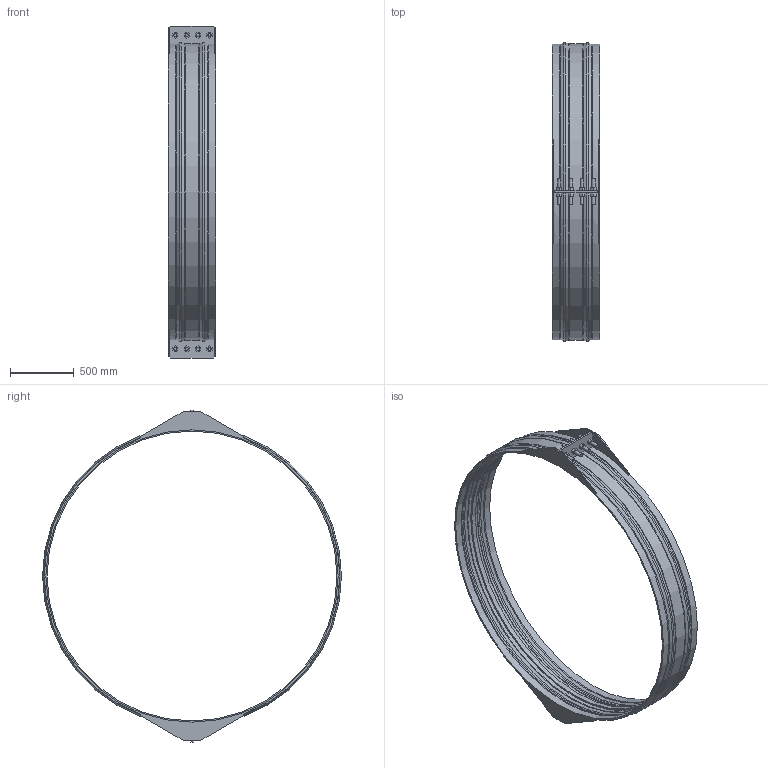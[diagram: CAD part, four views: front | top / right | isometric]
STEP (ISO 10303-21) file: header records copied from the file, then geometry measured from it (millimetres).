
FILE_DESCRIPTION(/* description */ ('VIC SS RESTRAINED COUPLING STYLE 233S (FLEX) (BRD)','CAx-IF Rec.Pracs.---Representation and Presentation of Product Manufacturing Information (PMI)---4.0---2014-10-13'),/* implementation_level */ '2;1');
FILE_NAME(/* name */ 'C:\Users\kkamble\AppData\Roaming\Autodesk\ApplicationPlugins\Back Up\Victaulic_VBSP_Coupling Flexible Restrained_Style 233S (BRD)\Victaulic_VBSP_Coupling Flexible Restrained_Style 233S (BRD)_100psi_90 (2250).stp',/* time_stamp */ '2020-09-22T18:31:40+05:00',/* author */ ('Vjadhav'),/* organization */ ('Victaulic'),/* preprocessor_version */ 'ST-DEVELOPER v17.2',/* originating_system */ 'Autodesk Inventor 2019',/* authorisation */ '');
FILE_SCHEMA (('AP242_MANAGED_MODEL_BASED_3D_ENGINEERING_MIM_LF { 1 0 10303 442 1 1 4 }'));
Length unit declared in the file: inch
Products named in the file (1): Style_233S_Type_2_100psi-90.0
Bounding box: 374.65 x 2338.09 x 2597.15 mm (x, y, z)
Volume: 43630250.3 mm3; surface area: 6722530.7 mm2
Topology: 1 solids, 1 shells, 239 faces, 625 edges, 422 vertices
Faces by surface type: plane 166, cylinder 43, torus 18, cone 12
Full cylindrical faces by diameter (mm): 25.4 x16, 2266.95 x1, 2286 x2, 2292.35 x2
Entity records: 7896 total; most frequent: CARTESIAN_POINT 1496, DIRECTION 1259, ORIENTED_EDGE 1250, EDGE_CURVE 625, LINE 449, VECTOR 449, VERTEX_POINT 422, AXIS2_PLACEMENT_3D 405
